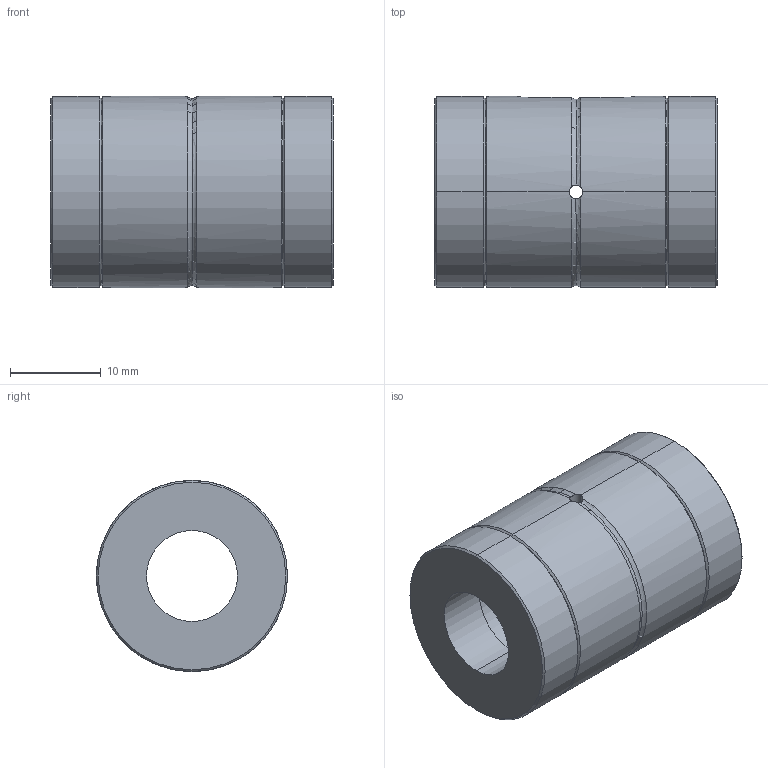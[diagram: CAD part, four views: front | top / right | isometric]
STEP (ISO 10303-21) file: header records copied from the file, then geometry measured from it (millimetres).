
FILE_DESCRIPTION (( 'STEP AP203' ), '1' );
FILE_NAME ('KLT010T2.STEP', '2023-08-11T07:26:46', ( 'Microsoft' ), ( 'Microsoft' ), 'SwSTEP 2.0', 'SolidWorks 2022', '' );
FILE_SCHEMA (( 'CONFIG_CONTROL_DESIGN' ));
Length unit declared in the file: millimetre
Products named in the file (4): 零件7^KLT010T2; 零件6^KLT010T2; 零件4^KLT010T2; KLT010T2
Assembly tree (3 placements, depth 2):
  KLT010T2
    零件4^KLT010T2
    零件6^KLT010T2
    零件7^KLT010T2
Bounding box: 31 x 21 x 21 mm (x, y, z)
Volume: 8212.3 mm3; surface area: 4670.4 mm2
Topology: 3 solids, 3 shells, 47 faces, 115 edges, 70 vertices
Faces by surface type: cylinder 20, cone 12, plane 9, torus 6
Entity records: 1960 total; most frequent: CARTESIAN_POINT 440, DIRECTION 242, ORIENTED_EDGE 230, EDGE_CURVE 115, AXIS2_PLACEMENT_3D 100, VERTEX_POINT 70, EDGE_LOOP 53, ADVANCED_FACE 47
